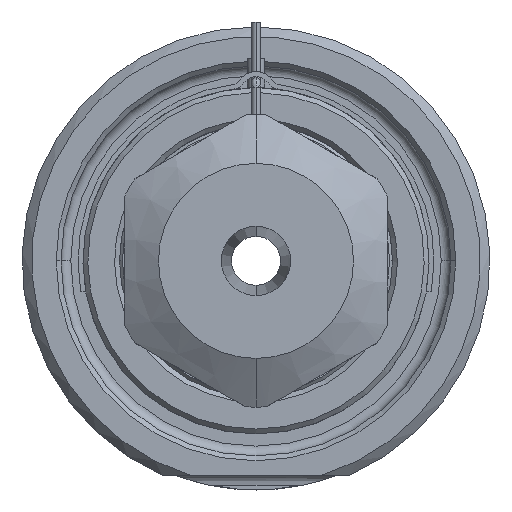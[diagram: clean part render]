
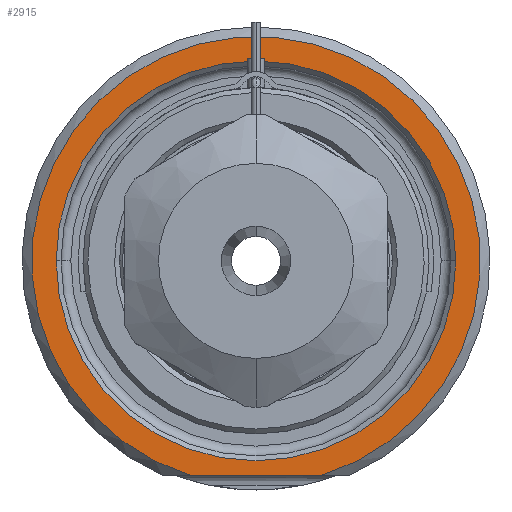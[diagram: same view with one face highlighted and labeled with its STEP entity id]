
A CAD part, front view. The second image highlights one B-rep face of the part: STEP entity #2915.
In plain terms, the highlighted planar face has unit normal (0, -1, 0).
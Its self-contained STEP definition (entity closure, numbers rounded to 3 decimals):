
#1=DIRECTION('',(1.,0.,0.));
#2=VECTOR('',#1,13.416);
#3=CARTESIAN_POINT('',(-6.708,0.,-22.));
#4=LINE('',#3,#2);
#5=CARTESIAN_POINT('',(0.,0.,0.));
#6=DIRECTION('',(0.,1.,0.));
#7=DIRECTION('',(-1.,0.,0.));
#8=AXIS2_PLACEMENT_3D('',#5,#6,#7);
#10=CARTESIAN_POINT('',(0.,0.,0.));
#11=DIRECTION('',(0.,1.,0.));
#12=DIRECTION('',(1.,0.,0.));
#13=AXIS2_PLACEMENT_3D('',#10,#11,#12);
#121=CARTESIAN_POINT('',(0.,0.,0.));
#122=DIRECTION('',(0.,-1.,0.));
#123=DIRECTION('',(0.292,0.,-0.957));
#124=AXIS2_PLACEMENT_3D('',#121,#122,#123);
#2429=CARTESIAN_POINT('',(-20.5,0.,0.));
#2430=CARTESIAN_POINT('',(20.5,0.,0.));
#2431=VERTEX_POINT('',#2429);
#2432=VERTEX_POINT('',#2430);
#2469=CARTESIAN_POINT('',(-6.708,0.,-22.));
#2470=CARTESIAN_POINT('',(6.708,0.,-22.));
#2471=VERTEX_POINT('',#2469);
#2472=VERTEX_POINT('',#2470);
#2898=CARTESIAN_POINT('',(0.,0.,0.));
#2899=DIRECTION('',(0.,-1.,0.));
#2900=DIRECTION('',(1.,0.,0.));
#2901=AXIS2_PLACEMENT_3D('',#2898,#2899,#2900);
#2902=PLANE('',#2901);
#2904=ORIENTED_EDGE('',*,*,#2903,.F.);
#2906=ORIENTED_EDGE('',*,*,#2905,.F.);
#2907=EDGE_LOOP('',(#2904,#2906));
#2908=FACE_OUTER_BOUND('',#2907,.F.);
#2910=ORIENTED_EDGE('',*,*,#2909,.F.);
#2912=ORIENTED_EDGE('',*,*,#2911,.F.);
#2913=EDGE_LOOP('',(#2910,#2912));
#2914=FACE_BOUND('',#2913,.F.);
#2915=ADVANCED_FACE('',(#2908,#2914),#2902,.T.);
#9=CIRCLE('',#8,20.5);
#14=CIRCLE('',#13,20.5);
#125=CIRCLE('',#124,23.);
#2903=EDGE_CURVE('',#2471,#2472,#4,.T.);
#2905=EDGE_CURVE('',#2472,#2471,#125,.T.);
#2909=EDGE_CURVE('',#2431,#2432,#9,.T.);
#2911=EDGE_CURVE('',#2432,#2431,#14,.T.);
